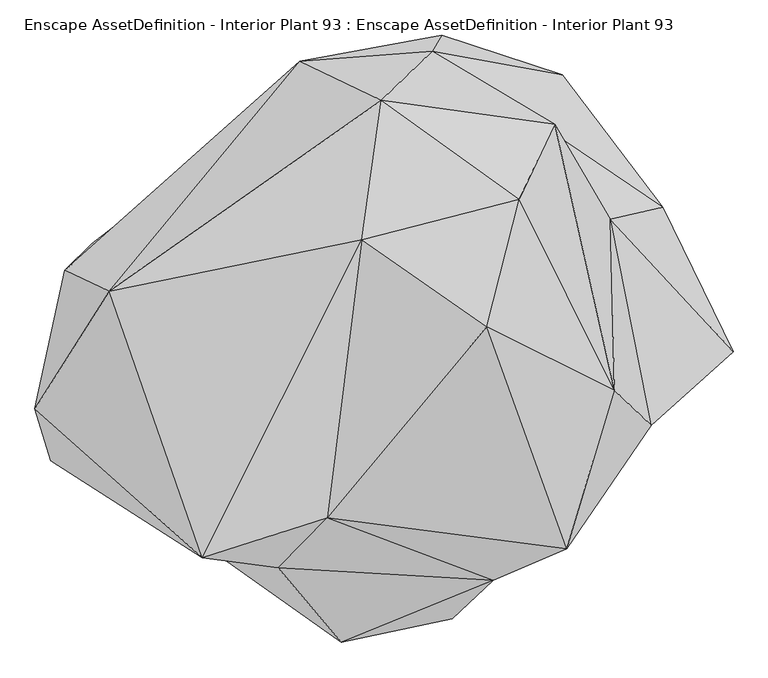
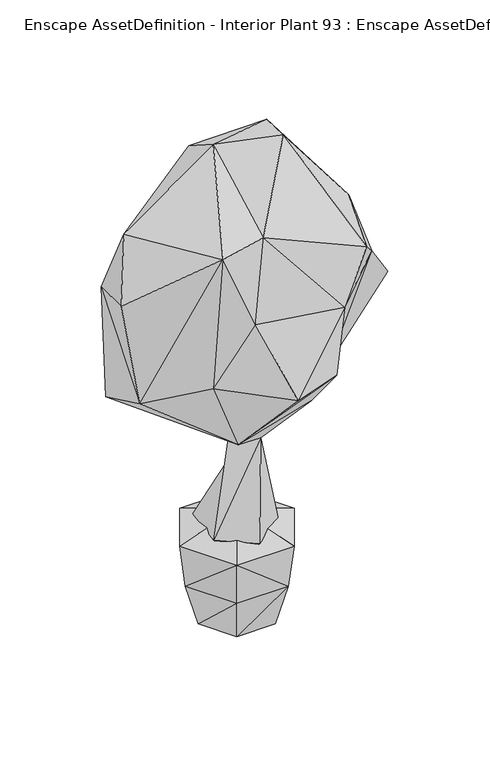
"""IFC4 building model written with IfcOpenShell, lengths in millimetres: geographic element geometry, Enscape AssetDefinition - Interior Plant 93 : Enscape AssetDefinition - Interior Plant 93."""

from ifc_helpers import new_model, si_unit, origin, place, context, project, spatial, faceted_brep, source, transform, mapped, element, save


def enscape_assetdefinition_interior_plant_93_enscape_c96065a9(model_context):
    return source(origin(), model_context, "Body", "Brep", [
        faceted_brep([(0.0, 0.0, 461.0872269), (241.4738685, 0.0, 374.163121), (120.7365915, 209.1221511, 374.163121), (120.7365915, -209.1221511, 374.163121), (217.7202702, 0.0, 186.5056157), (-120.7365915, 209.1221511, 374.163121), (108.8601351, 188.551113, 186.5056157), (-241.4738685, 0.0, 374.163121), (-120.7365915, -209.1221511, 374.163121), (108.8601351, -188.551113, 186.5056157), (-217.7202702, 0.0, 186.5056157), (-108.8601351, -188.551113, 186.5056157), (-108.8601351, 188.551113, 186.5056157), (-81.1477229, 140.5516118, 0.0), (-162.2947752, 0.0, 0.0), (-81.1477229, -140.5516118, 0.0), (81.1477229, -140.5516118, 0.0), (81.1477229, 140.5516118, 0.0), (162.2947752, 0.0, 0.0)], [[[0, 1, 2]], [[0, 3, 1]], [[1, 4, 2]], [[3, 4, 1]], [[0, 2, 5]], [[2, 6, 5]], [[2, 4, 6]], [[0, 5, 7]], [[0, 7, 8]], [[0, 8, 3]], [[9, 4, 3]], [[8, 9, 3]], [[7, 10, 8]], [[11, 9, 8]], [[8, 10, 11]], [[5, 12, 7]], [[7, 12, 10]], [[5, 6, 12]], [[13, 14, 12]], [[6, 13, 12]], [[12, 14, 10]], [[10, 14, 11]], [[11, 15, 9]], [[11, 14, 15]], [[9, 16, 4]], [[9, 15, 16]], [[14, 16, 15]], [[16, 14, 13]], [[17, 13, 6]], [[16, 13, 17]], [[4, 16, 18]], [[16, 17, 18]], [[18, 17, 4]], [[4, 17, 6]]]),
        faceted_brep([(294.5294678, 315.0620759, 1823.3300447), (388.9463246, 154.5727104, 1619.7340488), (87.4454081, 438.8382733, 1531.9777727), (457.7407837, -194.1804588, 1566.4045811), (395.2278495, -134.5196366, 1802.2344112), (477.4121046, 174.9414057, 1355.3085327), (596.4384079, -69.4951713, 1350.5694866), (1.2948781, 355.4831743, 1861.2012863), (235.0574732, 187.8901869, 1999.5164871), (315.405339, -403.0193686, 1760.6592178), (180.0130159, -27.9241819, 2081.5927982), (-31.6597708, 119.3938404, 2024.0118504), (-136.1341923, 421.7478633, 1442.4376488), (-458.5521221, 32.8548364, 1823.4097958), (-300.8055985, -418.3987379, 1927.1496534), (-89.9097249, -350.3515422, 1911.5343094), (191.035673, -456.4324319, 1567.6145554), (-172.9808748, -434.9880219, 1603.4126282), (-584.153235, -165.7471061, 1666.1609411), (-320.3171194, -381.0178936, 1337.0655775), (-557.0997596, -254.1299462, 1274.9586105), (-65.8445507, -561.3006949, 1301.69034), (-123.7559617, -222.7055579, 920.5780625), (-533.9443684, 67.929849, 1593.3893919), (-488.404423, 112.8284037, 1060.5375767), (-247.0317334, 299.9733686, 1204.4296265), (-39.8795493, -6.5377858, 788.182199), (-152.1427929, 241.1703765, 942.1108961), (103.3960208, 465.9558535, 1161.5360975), (79.6788409, 64.5240471, 843.8788056), (307.5119853, 398.8454044, 1176.7866611), (60.9503202, -68.7728673, 794.4751978), (234.3601435, -136.2879574, 939.9918914), (26.8039778, 51.2495227, 691.3118362), (433.6526692, 111.7048189, 1197.9362965), (272.2987235, -207.2621137, 1140.521884), (121.1898029, -520.7750201, 1325.6025314), (-140.0430948, -72.7559626, 409.4984829), (-0.7951361, -167.2915071, 402.3955166), (142.8965479, -53.6099784, 395.278424), (116.4931729, 116.6085005, 399.3586302), (-115.8889011, 120.7527816, 402.2943974), (0.0, 0.0, 247.8848547)], [[[0, 1, 2]], [[3, 1, 4]], [[5, 1, 6]], [[3, 6, 1]], [[4, 1, 0]], [[2, 1, 5]], [[0, 7, 8]], [[2, 7, 0]], [[0, 8, 4]], [[9, 4, 10]], [[9, 3, 4]], [[10, 4, 8]], [[11, 8, 7]], [[10, 8, 11]], [[12, 7, 2]], [[13, 11, 7]], [[12, 13, 7]], [[14, 15, 11]], [[11, 15, 10]], [[14, 11, 13]], [[9, 10, 15]], [[16, 9, 15]], [[16, 3, 9]], [[16, 15, 17]], [[14, 17, 15]], [[18, 14, 13]], [[19, 14, 20]], [[19, 17, 14]], [[14, 18, 20]], [[21, 16, 17]], [[19, 21, 17]], [[22, 19, 20]], [[19, 22, 21]], [[23, 24, 20]], [[20, 24, 22]], [[18, 23, 20]], [[23, 18, 13]], [[23, 13, 12]], [[23, 12, 25]], [[24, 23, 25]], [[24, 26, 22]], [[27, 24, 25]], [[24, 27, 26]], [[25, 28, 27]], [[25, 12, 28]], [[12, 2, 28]], [[29, 27, 28]], [[2, 30, 28]], [[29, 28, 30]], [[27, 29, 26]], [[31, 29, 32]], [[29, 33, 26]], [[33, 29, 31]], [[29, 30, 32]], [[34, 30, 5]], [[32, 30, 34]], [[30, 2, 5]], [[6, 34, 5]], [[32, 34, 35]], [[35, 34, 6]], [[35, 6, 3]], [[16, 36, 35]], [[32, 35, 36]], [[35, 3, 16]], [[36, 16, 21]], [[22, 32, 36]], [[22, 36, 21]], [[26, 31, 22]], [[31, 32, 22]], [[26, 33, 37]], [[37, 31, 26]], [[38, 31, 37]], [[38, 39, 31]], [[39, 33, 31]], [[40, 33, 39]], [[37, 33, 41]], [[41, 33, 40]], [[41, 42, 37]], [[37, 42, 38]], [[38, 42, 39]], [[39, 42, 40]], [[40, 42, 41]]]),
    ])


if __name__ == "__main__":
    model = new_model("IFC4")
    model_context = context("Model", 3, world=origin())
    ifc_project = project(units=[si_unit("LENGTHUNIT", "METRE", prefix="MILLI")], contexts=[model_context])
    site = spatial("IfcSite", under=ifc_project)
    building = spatial("IfcBuilding", under=site)
    placement = place(None, origin())
    enscape_assetdefinition_interior_plant_93_enscape_shape = enscape_assetdefinition_interior_plant_93_enscape_c96065a9(model_context)
    element("IfcGeographicElement", 1, ObjectType="Enscape AssetDefinition - Interior Plant 93 : Enscape AssetDefinition - Interior Plant 93", at=placement, inside=building, context=model_context, shape_type="MappedRepresentation", body=[
        mapped(enscape_assetdefinition_interior_plant_93_enscape_shape, transform((0.0, 0.0, 0.0), x_axis=(1.0, 0.0, 0.0), y_axis=(0.0, 1.0, 0.0), z_axis=(0.0, 0.0, 1.0))),
    ])
    save(model, "model.ifc")
